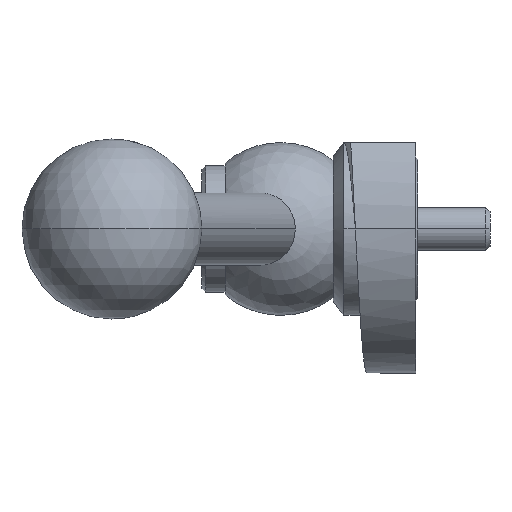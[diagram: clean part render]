
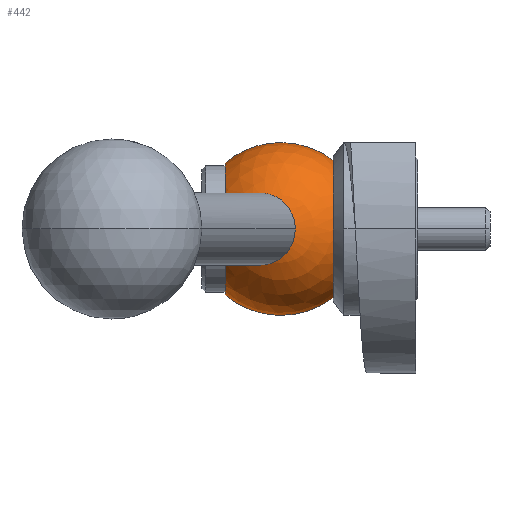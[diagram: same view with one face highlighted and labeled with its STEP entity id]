
A CAD part, left-side view. The second image highlights one B-rep face of the part: STEP entity #442.
In plain terms, the highlighted spherical face has radius 12 mm.
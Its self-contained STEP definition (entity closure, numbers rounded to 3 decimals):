
#26 = ORIENTED_EDGE ( 'NONE', *, *, #1237, .T. ) ;
#29 = CARTESIAN_POINT ( 'NONE',  ( 0., 8.75, 0. ) ) ;
#43 = CARTESIAN_POINT ( 'NONE',  ( 0., 8.75, 0. ) ) ;
#69 = DIRECTION ( 'NONE',  ( -1., 0., 0. ) ) ;
#78 = EDGE_LOOP ( 'NONE', ( #217, #1732, #425, #1754 ) ) ;
#105 = DIRECTION ( 'NONE',  ( 0.259, 0.966, 0. ) ) ;
#217 = ORIENTED_EDGE ( 'NONE', *, *, #971, .T. ) ;
#240 = DIRECTION ( 'NONE',  ( 0.259, 0.966, 0. ) ) ;
#284 = DIRECTION ( 'NONE',  ( 0., 0., -1. ) ) ;
#303 = EDGE_CURVE ( 'NONE', #2057, #1534, #1130, .T. ) ;
#313 = CARTESIAN_POINT ( 'NONE',  ( 0., 1.5, 9.562 ) ) ;
#372 = EDGE_CURVE ( 'NONE', #1960, #1608, #1392, .T. ) ;
#425 = ORIENTED_EDGE ( 'NONE', *, *, #1783, .F. ) ;
#431 = CARTESIAN_POINT ( 'NONE',  ( 0., 1.5, 0. ) ) ;
#442 = ADVANCED_FACE ( 'NONE', ( #1051, #1726 ), #1990, .T. ) ;
#460 = VERTEX_POINT ( 'NONE', #1383 ) ;
#465 = AXIS2_PLACEMENT_3D ( 'NONE', #1067, #1887, #1376 ) ;
#493 = AXIS2_PLACEMENT_3D ( 'NONE', #43, #1322, #696 ) ;
#566 = VERTEX_POINT ( 'NONE', #313 ) ;
#568 = CARTESIAN_POINT ( 'NONE',  ( -10.537, 11.573, 0. ) ) ;
#601 = ORIENTED_EDGE ( 'NONE', *, *, #372, .T. ) ;
#668 = DIRECTION ( 'NONE',  ( 0., 0., 1. ) ) ;
#670 = CARTESIAN_POINT ( 'NONE',  ( -11.831, 6.744, 0. ) ) ;
#677 = DIRECTION ( 'NONE',  ( 0.966, -0.259, 0. ) ) ;
#696 = DIRECTION ( 'NONE',  ( 0., 0., 1. ) ) ;
#726 = CIRCLE ( 'NONE', #1196, 5. ) ;
#833 = DIRECTION ( 'NONE',  ( 1., 0., 0. ) ) ;
#862 = AXIS2_PLACEMENT_3D ( 'NONE', #1659, #69, #668 ) ;
#971 = EDGE_CURVE ( 'NONE', #460, #2057, #1869, .T. ) ;
#1051 = FACE_BOUND ( 'NONE', #1498, .T. ) ;
#1066 = AXIS2_PLACEMENT_3D ( 'NONE', #431, #1760, #284 ) ;
#1067 = CARTESIAN_POINT ( 'NONE',  ( 0., 16.5, 0. ) ) ;
#1130 = CIRCLE ( 'NONE', #493, 12. ) ;
#1165 = AXIS2_PLACEMENT_3D ( 'NONE', #29, #833, #1280 ) ;
#1196 = AXIS2_PLACEMENT_3D ( 'NONE', #568, #1707, #105 ) ;
#1237 = EDGE_CURVE ( 'NONE', #1608, #1960, #726, .T. ) ;
#1280 = DIRECTION ( 'NONE',  ( 0., 0., -1. ) ) ;
#1293 = CARTESIAN_POINT ( 'NONE',  ( -9.243, 16.403, 0. ) ) ;
#1322 = DIRECTION ( 'NONE',  ( -1., 0., 0. ) ) ;
#1376 = DIRECTION ( 'NONE',  ( 0., 0., -1. ) ) ;
#1383 = CARTESIAN_POINT ( 'NONE',  ( 0., 16.5, 9.162 ) ) ;
#1392 = CIRCLE ( 'NONE', #1499, 5. ) ;
#1476 = CARTESIAN_POINT ( 'NONE',  ( -10.537, 11.573, 0. ) ) ;
#1498 = EDGE_LOOP ( 'NONE', ( #26, #601 ) ) ;
#1499 = AXIS2_PLACEMENT_3D ( 'NONE', #1476, #677, #240 ) ;
#1506 = CIRCLE ( 'NONE', #1165, 12. ) ;
#1511 = EDGE_CURVE ( 'NONE', #460, #566, #1506, .T. ) ;
#1534 = VERTEX_POINT ( 'NONE', #1811 ) ;
#1544 = CIRCLE ( 'NONE', #1066, 9.562 ) ;
#1608 = VERTEX_POINT ( 'NONE', #1293 ) ;
#1659 = CARTESIAN_POINT ( 'NONE',  ( 0., 8.75, 0. ) ) ;
#1707 = DIRECTION ( 'NONE',  ( 0.966, -0.259, 0. ) ) ;
#1726 = FACE_OUTER_BOUND ( 'NONE', #78, .T. ) ;
#1732 = ORIENTED_EDGE ( 'NONE', *, *, #303, .T. ) ;
#1754 = ORIENTED_EDGE ( 'NONE', *, *, #1511, .F. ) ;
#1760 = DIRECTION ( 'NONE',  ( 0., -1., 0. ) ) ;
#1783 = EDGE_CURVE ( 'NONE', #566, #1534, #1544, .T. ) ;
#1811 = CARTESIAN_POINT ( 'NONE',  ( 0., 1.5, -9.562 ) ) ;
#1869 = CIRCLE ( 'NONE', #465, 9.162 ) ;
#1887 = DIRECTION ( 'NONE',  ( 0., -1., 0. ) ) ;
#1957 = CARTESIAN_POINT ( 'NONE',  ( 0., 16.5, -9.162 ) ) ;
#1960 = VERTEX_POINT ( 'NONE', #670 ) ;
#1990 = SPHERICAL_SURFACE ( 'NONE', #862, 12. ) ;
#2057 = VERTEX_POINT ( 'NONE', #1957 ) ;
